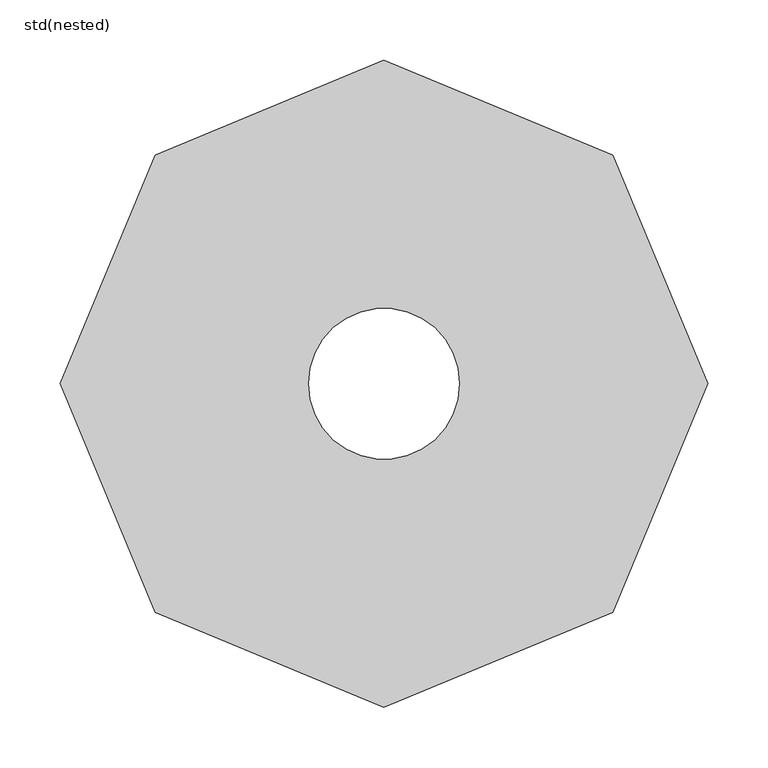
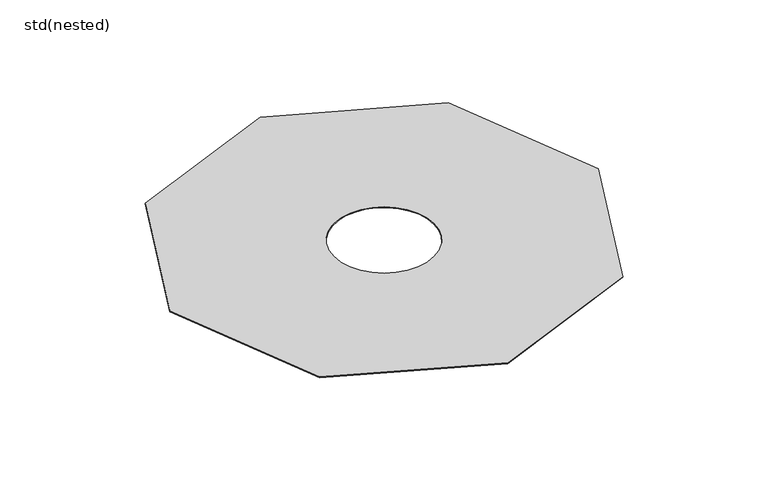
"""IFC4 building model written with IfcOpenShell, lengths in millimetres: sanitary terminal geometry, ZZZ_do_not_use_PF_UN_Thin-bed flange_ACO : std(nested)."""

from ifc_helpers import new_model, si_unit, point, origin, origin_with_axes, origin_2d, place, context, project, spatial, polyline, circle_curve, trimmed, segment, composite_curve, outline, extrude, source, transform, mapped, element, save


def std_nested_a513f84e(model_context):
    return source(origin(), model_context, "Body", "SweptSolid", [
        extrude(outline(polyline([(-189.5046174, 189.5046174), (0.0, 268.0), (189.5046174, 189.5046174), (268.0, 0.0), (189.5046174, -189.5046174), (0.0, -268.0), (-189.5046174, -189.5046174), (-268.0, 0.0), (-189.5046174, 189.5046174)]), holes=[composite_curve([segment(trimmed(circle_curve(origin_2d(), 62.5), [point((-62.5, 0.0))], [point((62.5, 0.0))], True, "CARTESIAN"), True, "CONTINUOUS"), segment(trimmed(circle_curve(origin_2d(), 62.5), [point((62.5, 0.0))], [point((-62.5, 0.0))], True, "CARTESIAN"), True, "CONTINUOUS")], self_intersect=False)]), origin_with_axes(), (0.0, 0.0, 1.0), 1.0),
    ])


if __name__ == "__main__":
    model = new_model("IFC4")
    model_context = context("Model", 3, world=origin())
    ifc_project = project(units=[si_unit("LENGTHUNIT", "METRE", prefix="MILLI")], contexts=[model_context])
    site = spatial("IfcSite", under=ifc_project)
    building = spatial("IfcBuilding", under=site)
    placement = place(None, origin())
    std_nested_shape = std_nested_a513f84e(model_context)
    element("IfcSanitaryTerminal", 1, ObjectType="ZZZ_do_not_use_PF_UN_Thin-bed flange_ACO : std(nested)", at=placement, inside=building, context=model_context, shape_type="MappedRepresentation", body=[
        mapped(std_nested_shape, transform((0.0, 0.0, 0.0), x_axis=(1.0, 0.0, 0.0), y_axis=(0.0, 1.0, 0.0), z_axis=(0.0, 0.0, 1.0))),
    ])
    save(model, "model.ifc")
